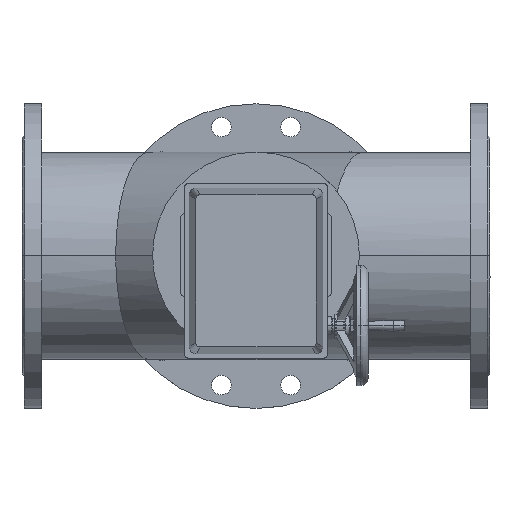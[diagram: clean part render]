
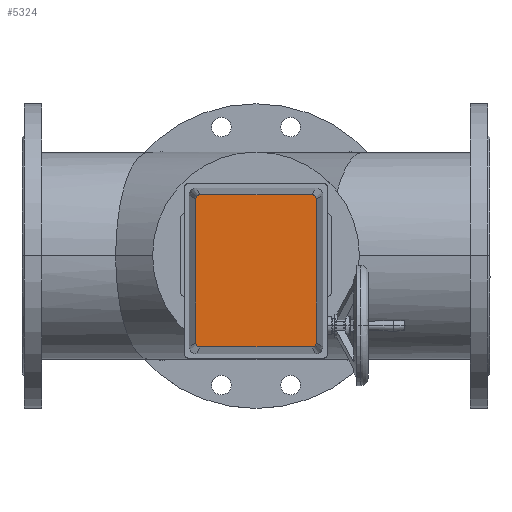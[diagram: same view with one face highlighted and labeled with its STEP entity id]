
A CAD part, top view. The second image highlights one B-rep face of the part: STEP entity #5324.
In plain terms, the highlighted planar face has unit normal (0, 0, 1).
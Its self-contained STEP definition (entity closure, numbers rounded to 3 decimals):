
#352=LINE('',#9252,#654);
#353=LINE('',#9256,#655);
#354=LINE('',#9260,#656);
#355=LINE('',#9264,#657);
#654=VECTOR('',#7057,304.8);
#655=VECTOR('',#7060,304.8);
#656=VECTOR('',#7063,304.8);
#657=VECTOR('',#7066,304.8);
#1212=FACE_OUTER_BOUND('',#1585,.T.);
#1585=EDGE_LOOP('',(#4084,#4085,#4086,#4087,#4088,#4089,#4090,#4091));
#1978=CIRCLE('',#5873,5.);
#1979=CIRCLE('',#5874,5.);
#1980=CIRCLE('',#5875,5.);
#1981=CIRCLE('',#5876,5.);
#2391=VERTEX_POINT('',#9250);
#2392=VERTEX_POINT('',#9251);
#2393=VERTEX_POINT('',#9253);
#2394=VERTEX_POINT('',#9255);
#2395=VERTEX_POINT('',#9257);
#2396=VERTEX_POINT('',#9259);
#2397=VERTEX_POINT('',#9261);
#2398=VERTEX_POINT('',#9263);
#2983=EDGE_CURVE('',#2391,#2392,#352,.T.);
#2984=EDGE_CURVE('',#2392,#2393,#1978,.T.);
#2985=EDGE_CURVE('',#2393,#2394,#353,.T.);
#2986=EDGE_CURVE('',#2394,#2395,#1979,.T.);
#2987=EDGE_CURVE('',#2395,#2396,#354,.T.);
#2988=EDGE_CURVE('',#2396,#2397,#1980,.T.);
#2989=EDGE_CURVE('',#2397,#2398,#355,.T.);
#2990=EDGE_CURVE('',#2398,#2391,#1981,.T.);
#4084=ORIENTED_EDGE('',*,*,#2983,.T.);
#4085=ORIENTED_EDGE('',*,*,#2984,.T.);
#4086=ORIENTED_EDGE('',*,*,#2985,.T.);
#4087=ORIENTED_EDGE('',*,*,#2986,.T.);
#4088=ORIENTED_EDGE('',*,*,#2987,.T.);
#4089=ORIENTED_EDGE('',*,*,#2988,.T.);
#4090=ORIENTED_EDGE('',*,*,#2989,.T.);
#4091=ORIENTED_EDGE('',*,*,#2990,.T.);
#4782=PLANE('',#5872);
#5324=ADVANCED_FACE('',(#1212),#4782,.T.);
#5872=AXIS2_PLACEMENT_3D('',#9249,#7055,#7056);
#5873=AXIS2_PLACEMENT_3D('',#9254,#7058,#7059);
#5874=AXIS2_PLACEMENT_3D('',#9258,#7061,#7062);
#5875=AXIS2_PLACEMENT_3D('',#9262,#7064,#7065);
#5876=AXIS2_PLACEMENT_3D('',#9265,#7067,#7068);
#7055=DIRECTION('center_axis',(0.,0.,1.));
#7056=DIRECTION('ref_axis',(0.,-1.,0.));
#7057=DIRECTION('',(0.,-1.,0.));
#7058=DIRECTION('center_axis',(0.,0.,1.));
#7059=DIRECTION('ref_axis',(1.,0.,0.));
#7060=DIRECTION('',(1.,0.,0.));
#7061=DIRECTION('center_axis',(0.,0.,1.));
#7062=DIRECTION('ref_axis',(1.,0.,0.));
#7063=DIRECTION('',(0.,1.,0.));
#7064=DIRECTION('center_axis',(0.,0.,1.));
#7065=DIRECTION('ref_axis',(1.,0.,0.));
#7066=DIRECTION('',(-1.,0.,0.));
#7067=DIRECTION('center_axis',(0.,0.,1.));
#7068=DIRECTION('ref_axis',(1.,0.,0.));
#9249=CARTESIAN_POINT('Origin',(-21.551,0.,
592.));
#9250=CARTESIAN_POINT('',(-122.531,75.,592.));
#9251=CARTESIAN_POINT('',(-122.531,-75.,592.));
#9252=CARTESIAN_POINT('',(-122.531,-75.,592.));
#9253=CARTESIAN_POINT('',(-117.531,-80.,592.));
#9254=CARTESIAN_POINT('Origin',(-117.531,-75.,592.));
#9255=CARTESIAN_POINT('',(74.43,-80.,592.));
#9256=CARTESIAN_POINT('',(74.43,-80.,592.));
#9257=CARTESIAN_POINT('',(79.43,-75.,592.));
#9258=CARTESIAN_POINT('Origin',(74.43,-75.,592.));
#9259=CARTESIAN_POINT('',(79.43,75.,592.));
#9260=CARTESIAN_POINT('',(79.43,75.,592.));
#9261=CARTESIAN_POINT('',(74.43,80.,592.));
#9262=CARTESIAN_POINT('Origin',(74.43,75.,592.));
#9263=CARTESIAN_POINT('',(-117.531,80.,592.));
#9264=CARTESIAN_POINT('',(-117.531,80.,592.));
#9265=CARTESIAN_POINT('Origin',(-117.531,75.,592.));
